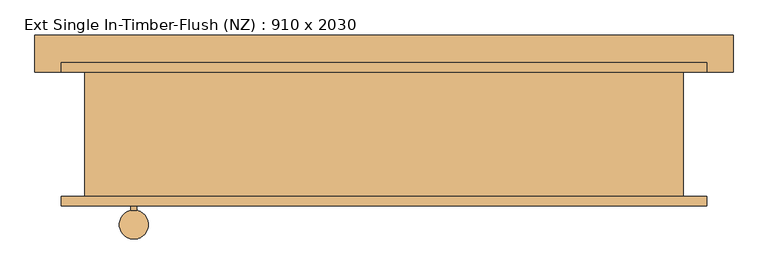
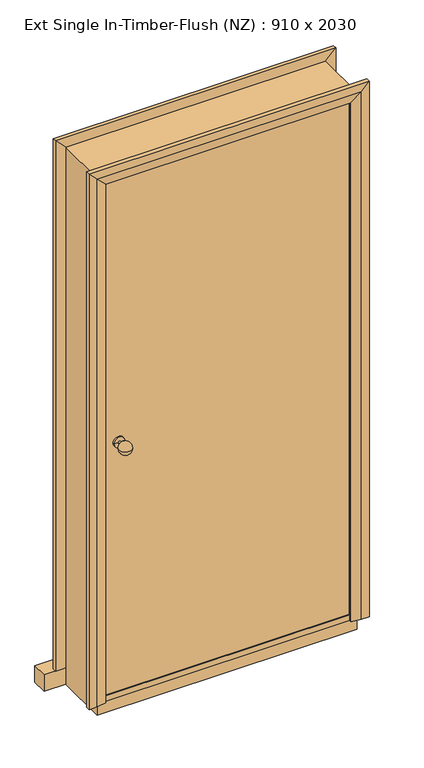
"""IFC4 building model written with IfcOpenShell, lengths in millimetres: door geometry, Ext Single In-Timber-Flush (NZ) : 910 x 2030."""

import ifcopenshell
import ifcopenshell.guid

model = None  # the IFC model being written
_history = None  # IfcOwnerHistory: only IFC2X3 demands one
_inside = {}  # id of a spatial element -> (the spatial element, [elements in it])
_under = {}  # id of a project, library or spatial element -> (it, [spatial elements below it])
_declared = {}  # id of a project -> (the project, [libraries it declares])
_typed = {}  # id of a type object -> (the type object, [elements of that type])
_made_of = {}  # id of a material, layer set ... -> (it, [elements and type objects made of it])


def new_model(schema):
    """Start an empty IFC model of exactly this schema.

    Asked for "IFC4X3", IfcOpenShell would pick the latest addendum, in which some entities
    have other attributes; the version numbers below select the first issue.
    IFC2X3 requires an IfcOwnerHistory on every rooted entity: one is made here for all.
    """
    global model, _history
    if schema == "IFC4X3":
        model = ifcopenshell.file(schema_version=(4, 3, 0, 0))
    else:
        model = ifcopenshell.file(schema=schema)
    _inside.clear()
    _under.clear()
    _declared.clear()
    _typed.clear()
    _made_of.clear()
    _history = None
    if model.schema == "IFC2X3":
        org = make("IfcOrganization", Name="unknown")
        user = make(
            "IfcPersonAndOrganization",
            ThePerson=make("IfcPerson", FamilyName="unknown"),
            TheOrganization=org,
        )
        app = make(
            "IfcApplication",
            ApplicationDeveloper=org,
            Version="unknown",
            ApplicationFullName="unknown",
            ApplicationIdentifier="unknown",
        )
        _history = make(
            "IfcOwnerHistory",
            OwningUser=user,
            OwningApplication=app,
            ChangeAction="ADDED",
            CreationDate=0,
        )
    return model


def make(cls, **values):
    """One entity of the class cls with the attributes given. An attribute that is None is left unset."""
    return model.create_entity(
        cls, **{name: value for name, value in values.items() if value is not None}
    )


def rooted(cls, **values):
    """An entity with a GlobalId (a new one), such as an element, a storey or a relation."""
    return make(cls, GlobalId=ifcopenshell.guid.new(), OwnerHistory=_history, **values)


def si_unit(unit_type, name, prefix=None):
    """IfcSIUnit, for example si_unit("LENGTHUNIT", "METRE", prefix="MILLI")."""
    return make("IfcSIUnit", UnitType=unit_type, Prefix=prefix, Name=name)


def assignment(units):
    """IfcUnitAssignment: the units of a project."""
    return None if units is None else make("IfcUnitAssignment", Units=units)


def point(xyz):
    """IfcCartesianPoint."""
    return None if xyz is None else make("IfcCartesianPoint", Coordinates=xyz)


def direction(xyz):
    """IfcDirection."""
    return None if xyz is None else make("IfcDirection", DirectionRatios=xyz)


def frame(location, z_axis=None, x_axis=None):
    """IfcAxis2Placement3D, a coordinate frame: its origin and axes. An axis left out is left unset."""
    return make(
        "IfcAxis2Placement3D",
        Location=point(location),
        Axis=direction(z_axis),
        RefDirection=direction(x_axis),
    )


def origin():
    """The frame at (0, 0, 0) with its axes left unset."""
    return frame((0.0, 0.0, 0.0))


def origin_with_axes():
    """The frame at (0, 0, 0) with the z axis (0, 0, 1) and the x axis (1, 0, 0) written out."""
    return frame((0.0, 0.0, 0.0), z_axis=(0.0, 0.0, 1.0), x_axis=(1.0, 0.0, 0.0))


def place(relative_to, where):
    """IfcLocalPlacement: puts the frame where relative to a parent placement (None: the world)."""
    return make(
        "IfcLocalPlacement", PlacementRelTo=relative_to, RelativePlacement=where
    )


def context(
    kind, dimensions, precision=None, world=None, true_north=None, identifier=None
):
    """IfcGeometricRepresentationContext, for example the 3D "Model" context."""
    return make(
        "IfcGeometricRepresentationContext",
        ContextIdentifier=identifier,
        ContextType=kind,
        CoordinateSpaceDimension=dimensions,
        Precision=precision,
        WorldCoordinateSystem=world,
        TrueNorth=true_north,
    )


def project(units=None, contexts=None):
    """IfcProject with its units and contexts."""
    return rooted(
        "IfcProject",
        Name="project",
        RepresentationContexts=contexts,
        UnitsInContext=assignment(units),
    )


def spatial(cls, under=None, at=None, **own):
    """A site, building, storey or space (cls), placed at a placement, below another one or the project."""
    s = rooted(cls, ObjectPlacement=at, **own)
    if under is not None:
        _under.setdefault(under.id(), (under, []))[1].append(s)
    return s


def polyline(points):
    """IfcPolyline through the points."""
    return make("IfcPolyline", Points=[point(p) for p in points])


def circle_curve(where, radius):
    """IfcCircle in the frame where."""
    return make("IfcCircle", Position=where, Radius=radius)


def ellipse_curve(where, semi_axis1, semi_axis2):
    """IfcEllipse in the frame where."""
    return make(
        "IfcEllipse", Position=where, SemiAxis1=semi_axis1, SemiAxis2=semi_axis2
    )


def trimmed(basis, trim1, trim2, sense, master):
    """IfcTrimmedCurve: the piece of a basis curve between two trims."""
    return make(
        "IfcTrimmedCurve",
        BasisCurve=basis,
        Trim1=trim1,
        Trim2=trim2,
        SenseAgreement=sense,
        MasterRepresentation=master,
    )


def outline(outer, holes=None, kind="AREA"):
    """IfcArbitraryClosedProfileDef: a profile drawn as a closed curve; with holes, ...WithVoids."""
    if holes is None:
        return make("IfcArbitraryClosedProfileDef", ProfileType=kind, OuterCurve=outer)
    return make(
        "IfcArbitraryProfileDefWithVoids",
        ProfileType=kind,
        OuterCurve=outer,
        InnerCurves=holes,
    )


def extrude(swept, where, along, depth):
    """IfcExtrudedAreaSolid: the profile swept, set in the frame where, extruded along a direction by depth."""
    return make(
        "IfcExtrudedAreaSolid",
        SweptArea=swept,
        Position=where,
        ExtrudedDirection=direction(along),
        Depth=depth,
    )


def faces_of(points, faces, orient=None, outer=None):
    """IfcFace entities. A face is a list of loops; a loop is a list of indices into points, from 0.

    orient and outer hold one flag for each loop. By default every Orientation is true, the
    first loop of a face is its IfcFaceOuterBound and the others are IfcFaceBound.
    """
    made = []
    for i, loops in enumerate(faces):
        bounds = []
        for j, loop in enumerate(loops):
            is_outer = j == 0 if outer is None else outer[i][j]
            bounds.append(
                make(
                    "IfcFaceOuterBound" if is_outer else "IfcFaceBound",
                    Bound=make("IfcPolyLoop", Polygon=[points[k] for k in loop]),
                    Orientation=True if orient is None else orient[i][j],
                )
            )
        made.append(make("IfcFace", Bounds=bounds))
    return made


def faceted_brep(points, faces, orient=None, outer=None, voids=None):
    """IfcFacetedBrep: a solid bounded by flat faces; with voids (closed shells), ...WithVoids."""
    shared = [point(p) for p in points]
    hull = make("IfcClosedShell", CfsFaces=faces_of(shared, faces, orient, outer))
    if voids is None:
        return make("IfcFacetedBrep", Outer=hull)
    return make(
        "IfcFacetedBrepWithVoids",
        Outer=hull,
        Voids=[
            make(cls, CfsFaces=faces_of(shared, fs, o, b)) for cls, fs, o, b in voids
        ],
    )


def shape(context_of_items, identifier, shape_type, items):
    """IfcShapeRepresentation: the items that make up one representation, for example the "Body"."""
    return make(
        "IfcShapeRepresentation",
        ContextOfItems=context_of_items,
        RepresentationIdentifier=identifier,
        RepresentationType=shape_type,
        Items=items,
    )


def source(mapping_origin, context_of_items, identifier, shape_type, items):
    """IfcRepresentationMap: a shape defined once, which mapped items show again and again."""
    return make(
        "IfcRepresentationMap",
        MappingOrigin=mapping_origin,
        MappedRepresentation=shape(context_of_items, identifier, shape_type, items),
    )


def transform(
    local_origin,
    x_axis=None,
    y_axis=None,
    z_axis=None,
    scale=None,
    scale2=None,
    scale3=None,
    uniform=True,
):
    """IfcCartesianTransformationOperator3D, or its non-uniform kind. x_axis, y_axis, z_axis: its Axis1, 2, 3."""
    if uniform:
        return make(
            "IfcCartesianTransformationOperator3D",
            Axis1=direction(x_axis),
            Axis2=direction(y_axis),
            LocalOrigin=point(local_origin),
            Scale=scale,
            Axis3=direction(z_axis),
        )
    return make(
        "IfcCartesianTransformationOperator3DnonUniform",
        Axis1=direction(x_axis),
        Axis2=direction(y_axis),
        LocalOrigin=point(local_origin),
        Scale=scale,
        Axis3=direction(z_axis),
        Scale2=scale2,
        Scale3=scale3,
    )


def mapped(mapping_source, mapping_target):
    """IfcMappedItem: shows the shape of a source again, moved by a transform."""
    return make(
        "IfcMappedItem", MappingSource=mapping_source, MappingTarget=mapping_target
    )


def made_of(thing, what):
    """Note that an element or type object is made of a material, layer set ...; save() writes the relation."""
    if what is not None:
        _made_of.setdefault(what.id(), (what, []))[1].append(thing)
    return thing


def element(
    cls,
    number,
    at=None,
    inside=None,
    cuts=None,
    type_object=None,
    material=None,
    context=None,
    identifier="Body",
    shape_type=None,
    held_by="IfcProductDefinitionShape",
    body=None,
    shapes=None,
    **own,
):
    """One element of the class cls, such as IfcWall. Its Tag is "e" and its number.

    at: its placement. inside: the storey or other place that contains it. cuts: it is an
    opening in that element (IfcRelVoidsElement). A single representation is given by context,
    identifier, shape_type and body (its items); several are given by shapes. held_by: the class
    of the entity that holds the representations. save() writes the other relations.
    """
    e = rooted(cls, Tag="e%d" % number, ObjectPlacement=at, **own)
    if body is not None:
        shapes = [shape(context, identifier, shape_type, body)]
    if shapes is not None:
        e.Representation = make(held_by, Representations=shapes)
    if inside is not None:
        _inside.setdefault(inside.id(), (inside, []))[1].append(e)
    if cuts is not None:
        rooted(
            "IfcRelVoidsElement", RelatingBuildingElement=cuts, RelatedOpeningElement=e
        )
    if type_object is not None:
        _typed.setdefault(type_object.id(), (type_object, []))[1].append(e)
    return made_of(e, material)


def aggregate(whole, parts):
    """IfcRelAggregates: a whole, such as a stair, and the parts it consists of."""
    return rooted("IfcRelAggregates", RelatingObject=whole, RelatedObjects=parts)


def save(model, path):
    """Write the relations noted so far, then the file.

    IfcRelAggregates (storeys below a building ...), IfcRelContainedInSpatialStructure (elements
    in a storey), IfcRelDefinesByType, IfcRelAssociatesMaterial and IfcRelDeclares: one each for
    every whole, place, type object, material and project.
    """
    for whole, parts in _under.values():
        aggregate(whole, parts)
    for where, things in _inside.values():
        rooted(
            "IfcRelContainedInSpatialStructure",
            RelatedElements=things,
            RelatingStructure=where,
        )
    for kind, things in _typed.values():
        rooted("IfcRelDefinesByType", RelatedObjects=things, RelatingType=kind)
    for what, things in _made_of.values():
        rooted("IfcRelAssociatesMaterial", RelatedObjects=things, RelatingMaterial=what)
    for by, libraries in _declared.values():
        rooted("IfcRelDeclares", RelatingContext=by, RelatedDefinitions=libraries)
    model.write(path)


def plane_surface(at):
    """IfcPlane: the flat surface through the origin of the frame at, square to its z axis."""
    return make("IfcPlane", Position=at)


def cylinder_surface(at, radius):
    """IfcCylindricalSurface: all points at the distance radius from the z axis of the frame at."""
    return make("IfcCylindricalSurface", Position=at, Radius=radius)


def revolved_surface(curve, axis_point, axis_direction):
    """IfcSurfaceOfRevolution: the curve turned about the line through axis_point along axis_direction."""
    return make(
        "IfcSurfaceOfRevolution",
        SweptCurve=make("IfcArbitraryOpenProfileDef", ProfileType="CURVE", Curve=curve),
        AxisPosition=make("IfcAxis1Placement", Location=point(axis_point), Axis=direction(axis_direction)),
    )


def advanced_brep(points, edges, surfaces, faces):
    """IfcAdvancedBrep: a solid bounded by faces that lie on surfaces and meet in shared edges.

    An edge is (start, end): straight between two places in points (the first is 0);
    or (start, end, curve); or (start, end, curve, False) where it runs against its curve.
    A face is (place in surfaces, loops), or (place, loops, False) where it looks against
    its surface's normal. A loop lists edges by number (the first is 1), with a minus sign
    where the edge is run from its end to its start. The first loop is the outer one.
    """
    corners = [point(p) for p in points]
    vertices = [make("IfcVertexPoint", VertexGeometry=c) for c in corners]
    made = []
    for start, end, *more in edges:
        made.append(
            make(
                "IfcEdgeCurve",
                EdgeStart=vertices[start],
                EdgeEnd=vertices[end],
                EdgeGeometry=more[0] if more else make("IfcPolyline", Points=[corners[start], corners[end]]),
                SameSense=more[1] if len(more) > 1 else True,
            )
        )
    hull = []
    for where, loops, *sense in faces:
        bounds = []
        for j, loop in enumerate(loops):
            ring = [make("IfcOrientedEdge", EdgeElement=made[abs(k) - 1], Orientation=k > 0) for k in loop]
            bounds.append(
                make(
                    "IfcFaceOuterBound" if j == 0 else "IfcFaceBound",
                    Bound=make("IfcEdgeLoop", EdgeList=ring),
                    Orientation=True,
                )
            )
        hull.append(make("IfcAdvancedFace", Bounds=bounds, FaceSurface=surfaces[where], SameSense=sense[0] if sense else True))
    return make("IfcAdvancedBrep", Outer=make("IfcClosedShell", CfsFaces=hull))


def ext_single_in_timber_flush_nz_910_x_2030_787d0b92(model_context):
    return source(origin(), model_context, "Body", "SolidModel", [
        advanced_brep(
        [(-377.0, -1.1791792, 1000.0), (-397.0, -1.1791792, 1000.0), (-357.0, -1.1791792, 1000.0), (-372.0, 19.3657082, 1000.0), (-382.0, 19.3657082, 1000.0), (-377.0, 65.2467446, 1000.0), (-372.0, 3.8208208, 1000.0), (-382.0, 3.8208208, 1000.0), (-357.0, 3.8208208, 1000.0), (-397.0, 3.8208208, 1000.0)],
        [
            (0, 1),
            (1, 2, circle_curve(frame((-377.0, -1.1791792, 1000.0), z_axis=(0.0, -1.0, 0.0), x_axis=(-1.0, 0.0, 0.0)), 20.0)),
            (2, 0),
            (2, 1, circle_curve(frame((-377.0, -1.1791792, 1000.0), z_axis=(0.0, -1.0, 0.0), x_axis=(-1.0, 0.0, 0.0)), 20.0)),
            (3, 4, circle_curve(frame((-377.0, 19.3657082, 1000.0), z_axis=(0.0, 1.0, 0.0), x_axis=(-1.0, 0.0, 0.0)), 5.0)),
            (4, 5, circle_curve(frame((-377.0, 42.0337827, 1000.0), z_axis=(0.0, 0.0, -1.0), x_axis=(0.0, -1.0, 0.0)), 23.2129619)),
            (5, 3, circle_curve(frame((-377.0, 42.0337827, 1000.0), z_axis=(0.0, 0.0, -1.0), x_axis=(0.0, -1.0, 0.0)), 23.2129619)),
            (4, 3, circle_curve(frame((-377.0, 19.3657082, 1000.0), z_axis=(0.0, 1.0, 0.0), x_axis=(-1.0, 0.0, 0.0)), 5.0)),
            (6, 7, circle_curve(frame((-377.0, 3.8208208, 1000.0), z_axis=(0.0, 1.0, 0.0), x_axis=(-1.0, 0.0, 0.0)), 5.0)),
            (7, 4),
            (3, 6),
            (7, 6, circle_curve(frame((-377.0, 3.8208208, 1000.0), z_axis=(0.0, 1.0, 0.0), x_axis=(-1.0, 0.0, 0.0)), 5.0)),
            (8, 9, circle_curve(frame((-377.0, 3.8208208, 1000.0), z_axis=(0.0, 1.0, 0.0), x_axis=(-1.0, 0.0, 0.0)), 20.0)),
            (9, 7),
            (6, 8),
            (9, 8, circle_curve(frame((-377.0, 3.8208208, 1000.0), z_axis=(0.0, 1.0, 0.0), x_axis=(-1.0, 0.0, 0.0)), 20.0)),
            (1, 9),
            (8, 2),
        ],
        [
            plane_surface(frame((-377.0, -1.1791792, 1000.0), z_axis=(0.0, -1.0, 0.0), x_axis=(-1.0, 0.0, 0.0))),
            revolved_surface(trimmed(ellipse_curve(frame((-377.0, 42.0337827, 1000.0), z_axis=(0.0, 0.0, 1.0), x_axis=(0.0, -1.0, 0.0)), 23.2129619, 23.2129619), [point((-377.0, 65.2467446, 1000.0))], [point((-382.0, 19.3657082, 1000.0))], True, "CARTESIAN"), (-377.0, 65.2467446, 1000.0), (0.0, -1.0, 0.0)),
            cylinder_surface(frame((-377.0, 65.2467446, 1000.0), z_axis=(0.0, -1.0, 0.0), x_axis=(-1.0, 0.0, 0.0)), 5.0),
            plane_surface(frame((-377.0, 3.8208208, 1000.0), z_axis=(0.0, 1.0, 0.0), x_axis=(-1.0, 0.0, 0.0))),
            cylinder_surface(frame((-377.0, 65.2467446, 1000.0), z_axis=(0.0, -1.0, 0.0), x_axis=(-1.0, 0.0, 0.0)), 20.0),
        ],
        [
            (0, [[1, 2, 3]]),
            (0, [[-3, 4, -1]]),
            (1, [[5, 6, 7]]),
            (1, [[8, -7, -6]]),
            (2, [[9, 10, -5, 11]]),
            (2, [[12, -11, -8, -10]]),
            (3, [[13, 14, -9, 15]]),
            (3, [[16, -15, -12, -14]]),
            (4, [[-2, 17, -13, 18]]),
            (4, [[-4, -18, -16, -17]]),
        ],
    ),
        advanced_brep(
        [(-357.0, -56.1791792, 1000.0), (-397.0, -56.1791792, 1000.0), (-397.0, -51.1791792, 1000.0), (-357.0, -51.1791792, 1000.0), (-372.0, -56.1791792, 1000.0), (-382.0, -56.1791792, 1000.0), (-372.0, -71.7240667, 1000.0), (-382.0, -71.7240667, 1000.0), (-377.0, -117.6051031, 1000.0), (-377.0, -51.1791792, 1000.0)],
        [
            (0, 1, circle_curve(frame((-377.0, -56.1791792, 1000.0), z_axis=(0.0, 1.0, 0.0), x_axis=(-1.0, 0.0, 0.0)), 20.0)),
            (1, 2),
            (2, 3, circle_curve(frame((-377.0, -51.1791792, 1000.0), z_axis=(0.0, -1.0, 0.0), x_axis=(-1.0, 0.0, 0.0)), 20.0)),
            (3, 0),
            (1, 0, circle_curve(frame((-377.0, -56.1791792, 1000.0), z_axis=(0.0, 1.0, 0.0), x_axis=(-1.0, 0.0, 0.0)), 20.0)),
            (3, 2, circle_curve(frame((-377.0, -51.1791792, 1000.0), z_axis=(0.0, -1.0, 0.0), x_axis=(-1.0, 0.0, 0.0)), 20.0)),
            (4, 5, circle_curve(frame((-377.0, -56.1791792, 1000.0), z_axis=(0.0, 1.0, 0.0), x_axis=(-1.0, 0.0, 0.0)), 5.0)),
            (5, 1),
            (0, 4),
            (5, 4, circle_curve(frame((-377.0, -56.1791792, 1000.0), z_axis=(0.0, 1.0, 0.0), x_axis=(-1.0, 0.0, 0.0)), 5.0)),
            (6, 7, circle_curve(frame((-377.0, -71.7240667, 1000.0), z_axis=(0.0, 1.0, 0.0), x_axis=(-1.0, 0.0, 0.0)), 5.0)),
            (7, 5),
            (4, 6),
            (7, 6, circle_curve(frame((-377.0, -71.7240667, 1000.0), z_axis=(0.0, 1.0, 0.0), x_axis=(-1.0, 0.0, 0.0)), 5.0)),
            (8, 7, circle_curve(frame((-377.0, -94.3921412, 1000.0), z_axis=(0.0, 0.0, -1.0), x_axis=(0.0, -1.0, 0.0)), 23.2129619)),
            (6, 8, circle_curve(frame((-377.0, -94.3921412, 1000.0), z_axis=(0.0, 0.0, -1.0), x_axis=(0.0, -1.0, 0.0)), 23.2129619)),
            (2, 9),
            (9, 3),
        ],
        [
            cylinder_surface(frame((-377.0, 65.2467446, 1000.0), z_axis=(0.0, -1.0, 0.0), x_axis=(-1.0, 0.0, 0.0)), 20.0),
            plane_surface(frame((-377.0, -56.1791792, 1000.0), z_axis=(0.0, -1.0, 0.0), x_axis=(-1.0, 0.0, 0.0))),
            cylinder_surface(frame((-377.0, 65.2467446, 1000.0), z_axis=(0.0, -1.0, 0.0), x_axis=(-1.0, 0.0, 0.0)), 5.0),
            revolved_surface(trimmed(ellipse_curve(frame((-377.0, -94.3921412, 1000.0), z_axis=(0.0, 0.0, 1.0), x_axis=(0.0, -1.0, 0.0)), 23.2129619, 23.2129619), [point((-382.0, -71.7240667, 1000.0))], [point((-377.0, -117.6051031, 1000.0))], True, "CARTESIAN"), (-377.0, 65.2467446, 1000.0), (0.0, -1.0, 0.0)),
            plane_surface(frame((-377.0, -51.1791792, 1000.0), z_axis=(0.0, 1.0, 0.0), x_axis=(-1.0, 0.0, 0.0))),
        ],
        [
            (0, [[1, 2, 3, 4]]),
            (0, [[5, -4, 6, -2]]),
            (1, [[7, 8, -1, 9]]),
            (1, [[10, -9, -5, -8]]),
            (2, [[11, 12, -7, 13]]),
            (2, [[14, -13, -10, -12]]),
            (3, [[15, -11, 16]]),
            (3, [[-16, -14, -15]]),
            (4, [[-3, 17, 18]]),
            (4, [[-6, -18, -17]]),
        ],
    ),
        faceted_brep([(-429.0, -59.1791792, 0.0), (-464.0, -64.1791792, 0.0), (-494.0, -64.1791792, 0.0), (-494.0, -49.1791792, 0.0), (-429.0, -49.1791792, 0.0), (-429.0, -59.1791792, 2029.0), (-464.0, -64.1791792, 2064.0), (-494.0, -64.1791792, 2094.0), (-494.0, -49.1791792, 2094.0), (-429.0, -49.1791792, 2029.0), (479.0, -59.1791792, 0.0), (479.0, -49.1791792, 0.0), (544.0, -49.1791792, 0.0), (544.0, -64.1791792, 0.0), (514.0, -64.1791792, 0.0), (479.0, -59.1791792, 2029.0), (479.0, -49.1791792, 2029.0), (544.0, -49.1791792, 2094.0), (544.0, -64.1791792, 2094.0), (514.0, -64.1791792, 2064.0)], [[[0, 1, 2, 3, 4]], [[1, 0, 5, 6]], [[2, 1, 6, 7]], [[3, 2, 7, 8]], [[4, 3, 8, 9]], [[0, 4, 9, 5]], [[10, 11, 12, 13, 14]], [[15, 16, 11, 10]], [[16, 17, 12, 11]], [[17, 18, 13, 12]], [[18, 19, 14, 13]], [[19, 15, 10, 14]], [[6, 5, 15, 19]], [[7, 6, 19, 18]], [[8, 7, 18, 17]], [[9, 8, 17, 16]], [[5, 9, 16, 15]]]),
        faceted_brep([(-429.0, 165.8208208, 20.0), (-429.0, 150.8208208, 20.0), (-494.0, 150.8208208, 20.0), (-494.0, 165.8208208, 20.0), (-429.0, 165.8208208, 2029.0), (-429.0, 150.8208208, 2029.0), (-494.0, 150.8208208, 2094.0), (-494.0, 165.8208208, 2094.0), (479.0, 165.8208208, 20.0), (544.0, 165.8208208, 20.0), (544.0, 150.8208208, 20.0), (479.0, 150.8208208, 20.0), (479.0, 165.8208208, 2029.0), (544.0, 165.8208208, 2094.0), (544.0, 150.8208208, 2094.0), (479.0, 150.8208208, 2029.0)], [[[0, 1, 2, 3]], [[1, 0, 4, 5]], [[2, 1, 5, 6]], [[3, 2, 6, 7]], [[0, 3, 7, 4]], [[8, 9, 10, 11]], [[12, 13, 9, 8]], [[13, 14, 10, 9]], [[14, 15, 11, 10]], [[15, 12, 8, 11]], [[5, 4, 12, 15]], [[6, 5, 15, 14]], [[7, 6, 14, 13]], [[4, 7, 13, 12]]]),
        extrude(outline(polyline([(480.0, -3.1791792), (480.0, -51.1791792), (-430.0, -51.1791792), (-430.0, -3.1791792), (480.0, -3.1791792)])), origin_with_axes(), (0.0, 0.0, 1.0), 22.0),
        extrude(outline(polyline([(-427.0, -1.1791792), (477.0, -1.1791792), (477.0, -49.1791792), (-427.0, -49.1791792), (-427.0, -1.1791792)])), frame((0.0, 0.0, 23.0), z_axis=(0.0, 0.0, 1.0), x_axis=(1.0, 0.0, 0.0)), (0.0, 0.0, 1.0), 2004.0),
        faceted_brep([(506.0, 150.8208208, 20.0), (586.0, 150.8208208, 20.0), (586.0, 210.8208208, 20.0), (-536.0, 210.8208208, 20.0), (-536.0, 150.8208208, 20.0), (-456.0, 150.8208208, 20.0), (-412.0, 150.8208208, 20.0), (-412.0, -1.1791792, 20.0), (-429.0, -1.1791792, 20.0), (-429.0, -49.1791792, 20.0), (479.0, -49.1791792, 20.0), (479.0, -1.1791792, 20.0), (462.0, -1.1791792, 20.0), (462.0, 150.8208208, 20.0), (506.0, 150.8208208, -45.0), (586.0, 150.8208208, -45.0), (586.0, 210.8208208, -45.0), (-536.0, 210.8208208, -45.0), (-536.0, 150.8208208, -45.0), (-456.0, 150.8208208, -45.0), (-456.0, 150.8208208, 2056.0), (-412.0, 150.8208208, 2012.0), (-412.0, -1.1791792, 2012.0), (-429.0, -1.1791792, 2029.0), (-429.0, -49.1791792, 2029.0), (-456.0, -49.1791792, 2056.0), (-456.0, -49.1791792, -45.0), (506.0, -49.1791792, -45.0), (506.0, -49.1791792, 2056.0), (479.0, -49.1791792, 2029.0), (479.0, -1.1791792, 2029.0), (462.0, -1.1791792, 2012.0), (462.0, 150.8208208, 2012.0), (506.0, 150.8208208, 2056.0)], [[[0, 1, 2, 3, 4, 5, 6, 7, 8, 9, 10, 11, 12, 13]], [[1, 0, 14, 15]], [[2, 1, 15, 16]], [[3, 2, 16, 17]], [[4, 3, 17, 18]], [[19, 5, 4, 18]], [[20, 21, 6, 5]], [[21, 22, 7, 6]], [[22, 23, 8, 7]], [[23, 24, 9, 8]], [[25, 26, 27, 28, 29, 10, 9, 24]], [[29, 30, 11, 10]], [[30, 31, 12, 11]], [[31, 32, 13, 12]], [[32, 33, 0, 13]], [[19, 18, 17, 16, 15, 14, 27, 26]], [[28, 27, 14, 0, 33]], [[19, 26, 25, 20, 5]], [[25, 24, 29, 28]], [[20, 25, 28, 33]], [[21, 20, 33, 32]], [[22, 21, 32, 31]], [[23, 22, 31, 30]], [[24, 23, 30, 29]]]),
    ])


if __name__ == "__main__":
    model = new_model("IFC4")
    model_context = context("Model", 3, world=origin())
    ifc_project = project(units=[si_unit("LENGTHUNIT", "METRE", prefix="MILLI")], contexts=[model_context])
    site = spatial("IfcSite", under=ifc_project)
    building = spatial("IfcBuilding", under=site)
    placement = place(None, origin())
    ext_single_in_timber_flush_nz_910_x_2030_shape = ext_single_in_timber_flush_nz_910_x_2030_787d0b92(model_context)
    element("IfcDoor", 1, ObjectType="Ext Single In-Timber-Flush (NZ) : 910 x 2030", at=placement, inside=building, context=model_context, shape_type="MappedRepresentation", body=[
        mapped(ext_single_in_timber_flush_nz_910_x_2030_shape, transform((0.0, 0.0, 0.0), x_axis=(1.0, 0.0, 0.0), y_axis=(0.0, 1.0, 0.0), z_axis=(0.0, 0.0, 1.0))),
    ])
    save(model, "model.ifc")
